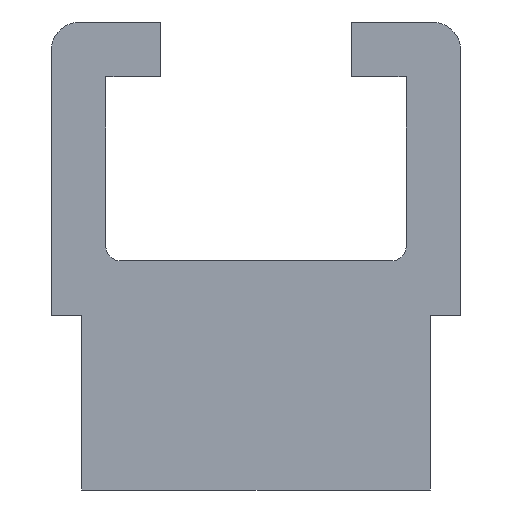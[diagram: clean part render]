
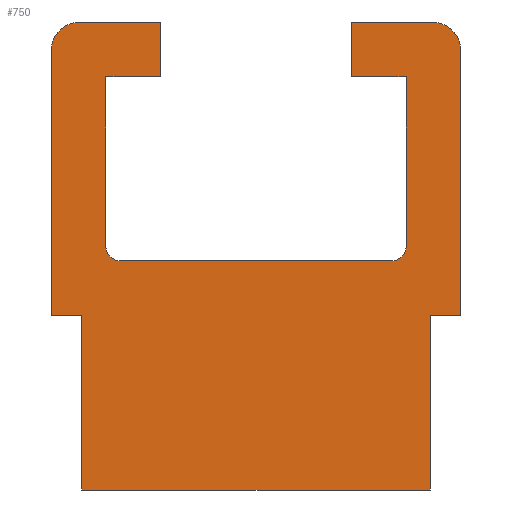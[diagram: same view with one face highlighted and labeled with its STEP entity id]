
A CAD part, left-side view. The second image highlights one B-rep face of the part: STEP entity #750.
In plain terms, the highlighted planar face has unit normal (-1, 0, 0).
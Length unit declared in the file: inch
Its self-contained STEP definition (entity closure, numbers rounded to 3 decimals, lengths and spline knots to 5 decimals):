
#14=DIRECTION('',(0.,-1.,0.));
#15=VECTOR('',#14,0.066);
#16=CARTESIAN_POINT('',(0.,0.882,0.));
#17=LINE('',#16,#15);
#30=DIRECTION('',(0.,-1.,0.));
#31=VECTOR('',#30,0.066);
#32=CARTESIAN_POINT('',(0.,0.066,0.));
#33=LINE('',#32,#31);
#120=CARTESIAN_POINT('',(0.,0.1492,0.1492));
#121=DIRECTION('',(1.,0.,0.));
#122=DIRECTION('',(0.,-1.,0.));
#123=AXIS2_PLACEMENT_3D('',#120,#121,#122);
#166=DIRECTION('',(0.,1.,0.));
#167=VECTOR('',#166,0.75);
#168=CARTESIAN_POINT('',(0.,0.066,-0.375));
#169=LINE('',#168,#167);
#198=DIRECTION('',(0.,0.,-1.));
#199=VECTOR('',#198,0.375);
#200=CARTESIAN_POINT('',(0.,0.816,0.));
#201=LINE('',#200,#199);
#202=DIRECTION('',(0.,0.,1.));
#203=VECTOR('',#202,0.3648);
#204=CARTESIAN_POINT('',(0.,0.764,0.1492));
#205=LINE('',#204,#203);
#206=DIRECTION('',(0.,1.,0.));
#207=VECTOR('',#206,0.5836);
#208=CARTESIAN_POINT('',(0.,0.1492,0.118));
#209=LINE('',#208,#207);
#210=DIRECTION('',(0.,0.,-1.));
#211=VECTOR('',#210,0.3648);
#212=CARTESIAN_POINT('',(0.,0.118,0.514));
#213=LINE('',#212,#211);
#214=DIRECTION('',(0.,-1.,0.));
#215=VECTOR('',#214,0.118);
#216=CARTESIAN_POINT('',(0.,0.236,0.514));
#217=LINE('',#216,#215);
#218=DIRECTION('',(0.,0.,-1.));
#219=VECTOR('',#218,0.118);
#220=CARTESIAN_POINT('',(0.,0.236,0.632));
#221=LINE('',#220,#219);
#222=DIRECTION('',(0.,0.,-1.));
#223=VECTOR('',#222,0.375);
#224=CARTESIAN_POINT('',(0.,0.066,0.));
#225=LINE('',#224,#223);
#226=DIRECTION('',(0.,0.,1.));
#227=VECTOR('',#226,0.5695);
#228=CARTESIAN_POINT('',(0.,0.882,0.));
#229=LINE('',#228,#227);
#230=DIRECTION('',(0.,0.,-1.));
#231=VECTOR('',#230,0.118);
#232=CARTESIAN_POINT('',(0.,0.646,0.632));
#233=LINE('',#232,#231);
#234=DIRECTION('',(0.,-1.,0.));
#235=VECTOR('',#234,0.118);
#236=CARTESIAN_POINT('',(0.,0.764,0.514));
#237=LINE('',#236,#235);
#251=CARTESIAN_POINT('',(0.,0.7328,0.1492));
#252=DIRECTION('',(1.,0.,0.));
#253=DIRECTION('',(0.,0.,-1.));
#254=AXIS2_PLACEMENT_3D('',#251,#252,#253);
#272=DIRECTION('',(0.,-1.,0.));
#273=VECTOR('',#272,0.1735);
#274=CARTESIAN_POINT('',(0.,0.8195,0.632));
#275=LINE('',#274,#273);
#276=DIRECTION('',(0.,-1.,0.));
#277=VECTOR('',#276,0.1735);
#278=CARTESIAN_POINT('',(0.,0.236,0.632));
#279=LINE('',#278,#277);
#301=CARTESIAN_POINT('',(0.,0.8195,0.5695));
#302=DIRECTION('',(-1.,0.,0.));
#303=DIRECTION('',(0.,0.,1.));
#304=AXIS2_PLACEMENT_3D('',#301,#302,#303);
#314=CARTESIAN_POINT('',(0.,0.0625,0.5695));
#315=DIRECTION('',(-1.,0.,0.));
#316=DIRECTION('',(0.,-1.,0.));
#317=AXIS2_PLACEMENT_3D('',#314,#315,#316);
#328=DIRECTION('',(0.,0.,1.));
#329=VECTOR('',#328,0.5695);
#330=CARTESIAN_POINT('',(0.,0.,0.));
#331=LINE('',#330,#329);
#356=CARTESIAN_POINT('',(0.,0.,0.));
#358=VERTEX_POINT('',#356);
#361=CARTESIAN_POINT('',(0.,0.882,0.));
#363=VERTEX_POINT('',#361);
#364=CARTESIAN_POINT('',(0.,0.816,-0.375));
#366=VERTEX_POINT('',#364);
#370=CARTESIAN_POINT('',(0.,0.066,-0.375));
#371=VERTEX_POINT('',#370);
#372=CARTESIAN_POINT('',(0.,0.816,0.));
#374=VERTEX_POINT('',#372);
#378=CARTESIAN_POINT('',(0.,0.066,0.));
#379=VERTEX_POINT('',#378);
#380=CARTESIAN_POINT('',(0.,0.236,0.632));
#382=VERTEX_POINT('',#380);
#384=CARTESIAN_POINT('',(0.,0.646,0.632));
#386=VERTEX_POINT('',#384);
#396=CARTESIAN_POINT('',(0.,0.236,0.514));
#397=VERTEX_POINT('',#396);
#398=CARTESIAN_POINT('',(0.,0.118,0.514));
#399=VERTEX_POINT('',#398);
#400=CARTESIAN_POINT('',(0.,0.764,0.514));
#401=CARTESIAN_POINT('',(0.,0.646,0.514));
#402=VERTEX_POINT('',#400);
#403=VERTEX_POINT('',#401);
#405=CARTESIAN_POINT('',(0.,0.882,0.5695));
#407=VERTEX_POINT('',#405);
#410=CARTESIAN_POINT('',(0.,0.8195,0.632));
#411=VERTEX_POINT('',#410);
#412=CARTESIAN_POINT('',(0.,0.,0.5695));
#414=VERTEX_POINT('',#412);
#416=CARTESIAN_POINT('',(0.,0.0625,0.632));
#417=VERTEX_POINT('',#416);
#453=CARTESIAN_POINT('',(0.,0.1492,0.118));
#455=VERTEX_POINT('',#453);
#457=CARTESIAN_POINT('',(0.,0.118,0.1492));
#459=VERTEX_POINT('',#457);
#461=CARTESIAN_POINT('',(0.,0.764,0.1492));
#463=VERTEX_POINT('',#461);
#465=CARTESIAN_POINT('',(0.,0.7328,0.118));
#467=VERTEX_POINT('',#465);
#710=CARTESIAN_POINT('',(0.,0.882,0.));
#711=DIRECTION('',(-1.,0.,0.));
#712=DIRECTION('',(0.,-1.,0.));
#713=AXIS2_PLACEMENT_3D('',#710,#711,#712);
#714=PLANE('',#713);
#716=ORIENTED_EDGE('',*,*,#715,.F.);
#718=ORIENTED_EDGE('',*,*,#717,.F.);
#719=ORIENTED_EDGE('',*,*,#630,.F.);
#720=ORIENTED_EDGE('',*,*,#619,.F.);
#721=ORIENTED_EDGE('',*,*,#605,.F.);
#723=ORIENTED_EDGE('',*,*,#722,.F.);
#725=ORIENTED_EDGE('',*,*,#724,.F.);
#727=ORIENTED_EDGE('',*,*,#726,.T.);
#729=ORIENTED_EDGE('',*,*,#728,.F.);
#731=ORIENTED_EDGE('',*,*,#730,.F.);
#732=ORIENTED_EDGE('',*,*,#487,.F.);
#734=ORIENTED_EDGE('',*,*,#733,.T.);
#735=ORIENTED_EDGE('',*,*,#676,.T.);
#736=ORIENTED_EDGE('',*,*,#702,.F.);
#737=ORIENTED_EDGE('',*,*,#479,.F.);
#739=ORIENTED_EDGE('',*,*,#738,.T.);
#741=ORIENTED_EDGE('',*,*,#740,.F.);
#743=ORIENTED_EDGE('',*,*,#742,.T.);
#745=ORIENTED_EDGE('',*,*,#744,.T.);
#747=ORIENTED_EDGE('',*,*,#746,.F.);
#748=EDGE_LOOP('',(#716,#718,#719,#720,#721,#723,#725,#727,#729,#731,#732,#734,
#735,#736,#737,#739,#741,#743,#745,#747));
#749=FACE_OUTER_BOUND('',#748,.F.);
#124=CIRCLE('',#123,0.0312);
#255=CIRCLE('',#254,0.0312);
#305=CIRCLE('',#304,0.0625);
#318=CIRCLE('',#317,0.0625);
#479=EDGE_CURVE('',#363,#374,#17,.T.);
#487=EDGE_CURVE('',#379,#358,#33,.T.);
#605=EDGE_CURVE('',#399,#459,#213,.T.);
#619=EDGE_CURVE('',#459,#455,#124,.T.);
#630=EDGE_CURVE('',#455,#467,#209,.T.);
#676=EDGE_CURVE('',#371,#366,#169,.T.);
#702=EDGE_CURVE('',#374,#366,#201,.T.);
#715=EDGE_CURVE('',#463,#402,#205,.T.);
#717=EDGE_CURVE('',#467,#463,#255,.T.);
#722=EDGE_CURVE('',#397,#399,#217,.T.);
#724=EDGE_CURVE('',#382,#397,#221,.T.);
#726=EDGE_CURVE('',#382,#417,#279,.T.);
#728=EDGE_CURVE('',#414,#417,#318,.T.);
#730=EDGE_CURVE('',#358,#414,#331,.T.);
#733=EDGE_CURVE('',#379,#371,#225,.T.);
#738=EDGE_CURVE('',#363,#407,#229,.T.);
#740=EDGE_CURVE('',#411,#407,#305,.T.);
#742=EDGE_CURVE('',#411,#386,#275,.T.);
#744=EDGE_CURVE('',#386,#403,#233,.T.);
#746=EDGE_CURVE('',#402,#403,#237,.T.);
#750=ADVANCED_FACE('',(#749),#714,.T.);
